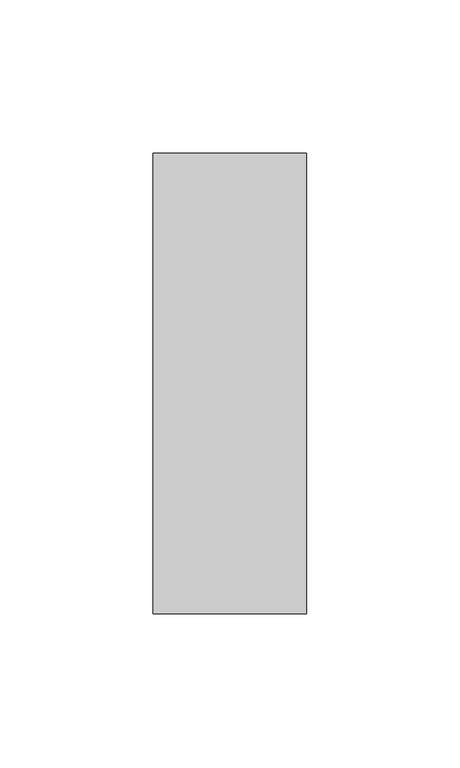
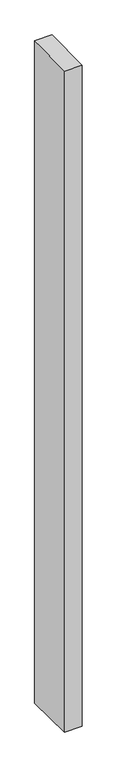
"""IFC4 building model written with IfcOpenShell, lengths in millimetres: member geometry, Прямоугольный импост : 50 x 150 мм."""

from ifc_helpers import new_model, si_unit, origin, place, context, project, spatial, faceted_brep, source, transform, mapped, element, save


def member_a3cf55da(model_context):
    return source(origin(), model_context, "Body", "Brep", [
        faceted_brep([(-25.0, 75.0, 0.5729485), (25.0, 75.0, 1.0119434), (25.0, 75.0, -2023.6984828), (-25.0, 75.0, -2023.2594397), (-25.0, -75.0, -1.0119434), (-25.0, -75.0, -2020.4047634), (25.0, -75.0, -0.5729485), (25.0, -75.0, -2020.8438066)], [[[0, 1, 2, 3]], [[4, 0, 3, 5]], [[6, 4, 5, 7]], [[1, 6, 7, 2]], [[1, 0, 4, 6]], [[2, 7, 5, 3]]]),
    ])


if __name__ == "__main__":
    model = new_model("IFC4")
    model_context = context("Model", 3, world=origin())
    ifc_project = project(units=[si_unit("LENGTHUNIT", "METRE", prefix="MILLI")], contexts=[model_context])
    site = spatial("IfcSite", under=ifc_project)
    building = spatial("IfcBuilding", under=site)
    placement = place(None, origin())
    member_shape = member_a3cf55da(model_context)
    element("IfcMember", 1, ObjectType="Прямоугольный импост : 50 x 150 мм", at=placement, inside=building, context=model_context, shape_type="MappedRepresentation", body=[
        mapped(member_shape, transform((0.0, 0.0, 0.0), x_axis=(1.0, 0.0, 0.0), y_axis=(0.0, 1.0, 0.0), z_axis=(0.0, 0.0, 1.0))),
    ])
    save(model, "model.ifc")
